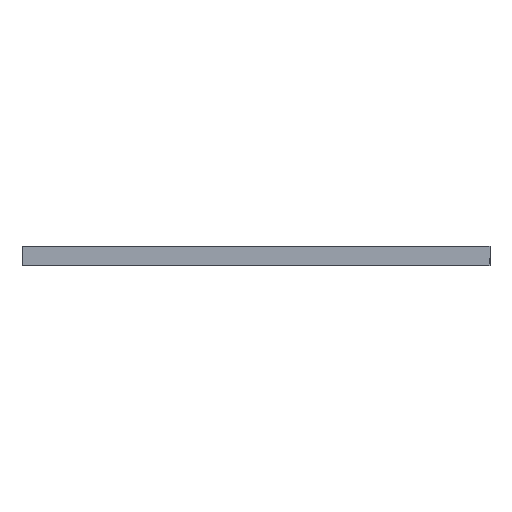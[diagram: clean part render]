
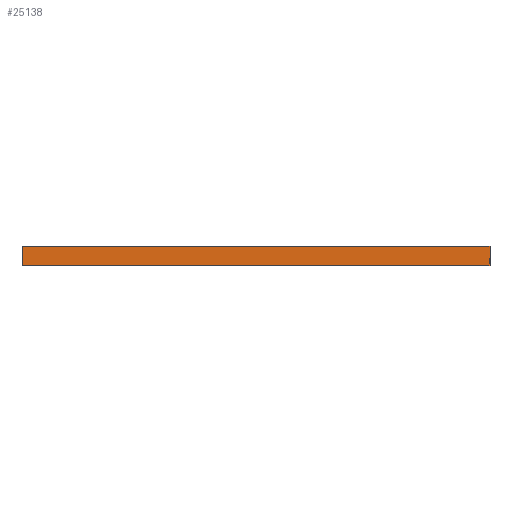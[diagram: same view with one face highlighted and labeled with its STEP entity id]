
A CAD part, front view. The second image highlights one B-rep face of the part: STEP entity #25138.
In plain terms, the highlighted planar face has unit normal (0, -1, 0).
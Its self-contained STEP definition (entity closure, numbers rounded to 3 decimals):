
#1030 = VERTEX_POINT ( 'NONE', #26188 ) ;
#1468 = DIRECTION ( 'NONE',  ( 1., 0., 0. ) ) ;
#1654 = EDGE_CURVE ( 'NONE', #15391, #1030, #6134, .T. ) ;
#1670 = DIRECTION ( 'NONE',  ( 0., 0., -1. ) ) ;
#3564 = EDGE_LOOP ( 'NONE', ( #4607, #16658, #28664, #3956 ) ) ;
#3956 = ORIENTED_EDGE ( 'NONE', *, *, #25811, .T. ) ;
#4090 = FACE_OUTER_BOUND ( 'NONE', #3564, .T. ) ;
#4607 = ORIENTED_EDGE ( 'NONE', *, *, #1654, .T. ) ;
#6134 = LINE ( 'NONE', #11737, #16779 ) ;
#7147 = EDGE_CURVE ( 'NONE', #7176, #1030, #18377, .T. ) ;
#7176 = VERTEX_POINT ( 'NONE', #26121 ) ;
#7570 = DIRECTION ( 'NONE',  ( 1., 0., 0. ) ) ;
#7703 = VECTOR ( 'NONE', #7570, 1000. ) ;
#10604 = CARTESIAN_POINT ( 'NONE',  ( -12., -50., 0.5 ) ) ;
#10951 = CARTESIAN_POINT ( 'NONE',  ( 0., -50., 0.5 ) ) ;
#11737 = CARTESIAN_POINT ( 'NONE',  ( -12., -50., 0. ) ) ;
#12211 = VECTOR ( 'NONE', #30779, 1000. ) ;
#13899 = DIRECTION ( 'NONE',  ( -1., 0., 0. ) ) ;
#15391 = VERTEX_POINT ( 'NONE', #28934 ) ;
#16658 = ORIENTED_EDGE ( 'NONE', *, *, #7147, .F. ) ;
#16779 = VECTOR ( 'NONE', #1468, 1000. ) ;
#18377 = LINE ( 'NONE', #10951, #12211 ) ;
#19041 = CARTESIAN_POINT ( 'NONE',  ( -12., -50., 0.5 ) ) ;
#19458 = AXIS2_PLACEMENT_3D ( 'NONE', #21305, #23083, #13899 ) ;
#20479 = VECTOR ( 'NONE', #1670, 1000. ) ;
#20825 = PLANE ( 'NONE',  #19458 ) ;
#21305 = CARTESIAN_POINT ( 'NONE',  ( -12., -50., 0.5 ) ) ;
#23083 = DIRECTION ( 'NONE',  ( 0., 1., 0. ) ) ;
#24360 = VERTEX_POINT ( 'NONE', #24969 ) ;
#24969 = CARTESIAN_POINT ( 'NONE',  ( -12., -50., 0.5 ) ) ;
#25138 = ADVANCED_FACE ( 'NONE', ( #4090 ), #20825, .F. ) ;
#25811 = EDGE_CURVE ( 'NONE', #24360, #15391, #30633, .T. ) ;
#26121 = CARTESIAN_POINT ( 'NONE',  ( 0., -50., 0.5 ) ) ;
#26188 = CARTESIAN_POINT ( 'NONE',  ( 0., -50., 0. ) ) ;
#27868 = LINE ( 'NONE', #10604, #7703 ) ;
#28664 = ORIENTED_EDGE ( 'NONE', *, *, #31745, .F. ) ;
#28934 = CARTESIAN_POINT ( 'NONE',  ( -12., -50., 0. ) ) ;
#30633 = LINE ( 'NONE', #19041, #20479 ) ;
#30779 = DIRECTION ( 'NONE',  ( 0., 0., -1. ) ) ;
#31745 = EDGE_CURVE ( 'NONE', #24360, #7176, #27868, .T. ) ;
